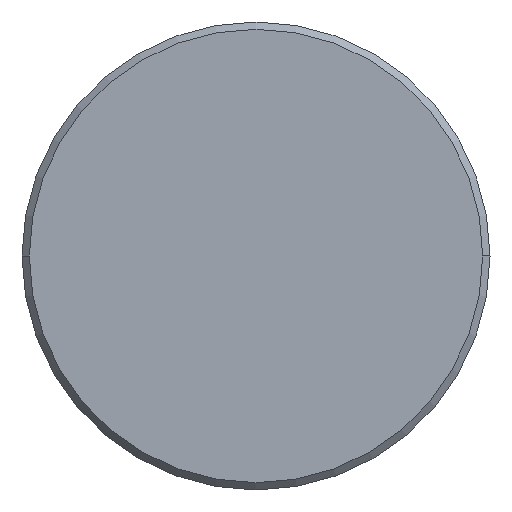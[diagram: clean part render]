
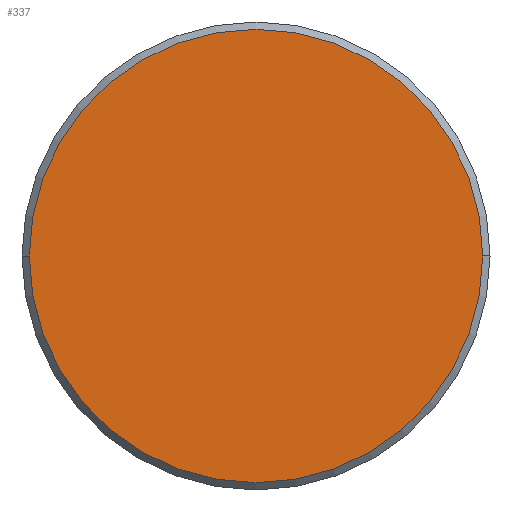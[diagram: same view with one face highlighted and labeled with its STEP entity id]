
A CAD part, left-side view. The second image highlights one B-rep face of the part: STEP entity #337.
In plain terms, the highlighted planar face has unit normal (-1, 0, 0).
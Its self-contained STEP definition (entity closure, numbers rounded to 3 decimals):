
#15 = CARTESIAN_POINT ( 'NONE',  ( -62., -15.5, 0. ) ) ;
#26 = DIRECTION ( 'NONE',  ( 0., -1., 0. ) ) ;
#40 = AXIS2_PLACEMENT_3D ( 'NONE', #333, #206, #26 ) ;
#74 = EDGE_CURVE ( 'NONE', #326, #75, #197, .T. ) ;
#75 = VERTEX_POINT ( 'NONE', #15 ) ;
#81 = EDGE_CURVE ( 'NONE', #75, #326, #316, .T. ) ;
#85 = ORIENTED_EDGE ( 'NONE', *, *, #81, .F. ) ;
#93 = CARTESIAN_POINT ( 'NONE',  ( -62., 0., 0. ) ) ;
#102 = AXIS2_PLACEMENT_3D ( 'NONE', #93, #276, #123 ) ;
#123 = DIRECTION ( 'NONE',  ( 0., 1., 0. ) ) ;
#138 = AXIS2_PLACEMENT_3D ( 'NONE', #147, #327, #174 ) ;
#147 = CARTESIAN_POINT ( 'NONE',  ( -62., 0., 0. ) ) ;
#174 = DIRECTION ( 'NONE',  ( 0., 1., 0. ) ) ;
#192 = ORIENTED_EDGE ( 'NONE', *, *, #74, .F. ) ;
#197 = CIRCLE ( 'NONE', #102, 15.5 ) ;
#199 = EDGE_LOOP ( 'NONE', ( #192, #85 ) ) ;
#206 = DIRECTION ( 'NONE',  ( -1., 0., 0. ) ) ;
#227 = CARTESIAN_POINT ( 'NONE',  ( -62., 15.5, 0. ) ) ;
#276 = DIRECTION ( 'NONE',  ( 1., 0., 0. ) ) ;
#305 = PLANE ( 'NONE',  #40 ) ;
#316 = CIRCLE ( 'NONE', #138, 15.5 ) ;
#326 = VERTEX_POINT ( 'NONE', #227 ) ;
#327 = DIRECTION ( 'NONE',  ( 1., 0., 0. ) ) ;
#333 = CARTESIAN_POINT ( 'NONE',  ( -62., 0., 0. ) ) ;
#337 = ADVANCED_FACE ( 'NONE', ( #342 ), #305, .T. ) ;
#342 = FACE_OUTER_BOUND ( 'NONE', #199, .T. ) ;
